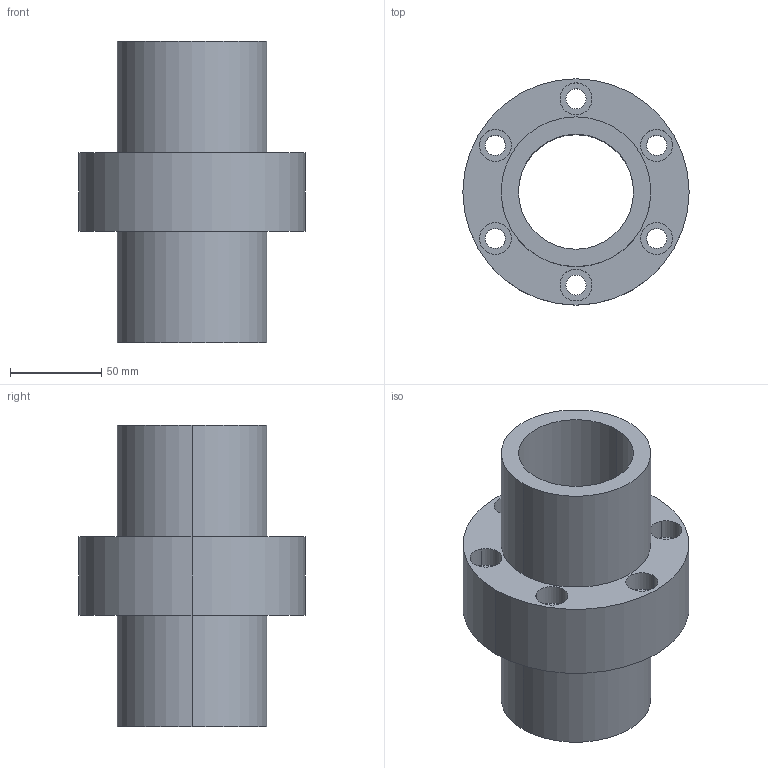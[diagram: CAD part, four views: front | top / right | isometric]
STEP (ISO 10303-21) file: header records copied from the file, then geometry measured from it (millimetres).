
FILE_DESCRIPTION((''),'2;1');
FILE_NAME('63-8T4','2008-04-07T',('yanyu'),(''),'PRO/ENGINEER BY PARAMETRIC TECHNOLOGY CORPORATION, 2005070','PRO/ENGINEER BY PARAMETRIC TECHNOLOGY CORPORATION, 2005070','');
FILE_SCHEMA(('CONFIG_CONTROL_DESIGN'));
Length unit declared in the file: millimetre
Products named in the file (1): 63-8T4
Bounding box: 124 x 124 x 165 mm (x, y, z)
Volume: 615097.5 mm3; surface area: 107877.6 mm2
Topology: 1 solids, 1 shells, 42 faces, 104 edges, 72 vertices
Faces by surface type: cylinder 32, plane 10
Entity records: 1370 total; most frequent: DIRECTION 260, CARTESIAN_POINT 218, ORIENTED_EDGE 208, AXIS2_PLACEMENT_3D 114, EDGE_CURVE 104, VERTEX_POINT 72, CIRCLE 72, EDGE_LOOP 64
